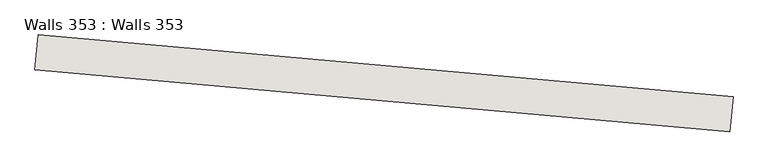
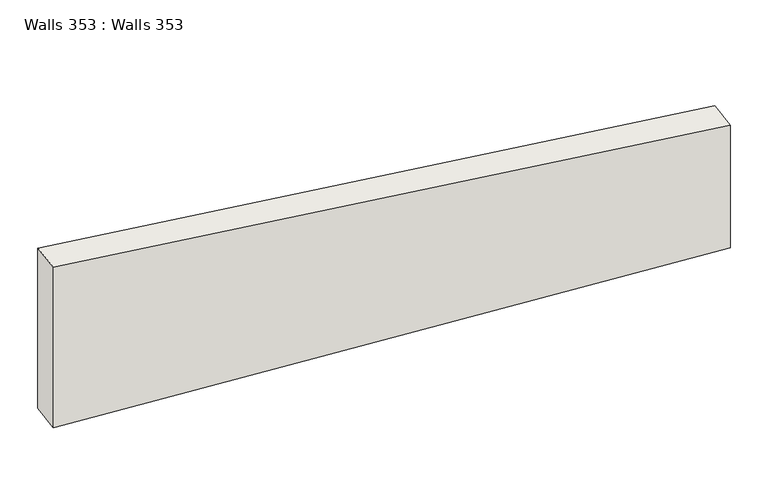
"""IFC4 building model written with IfcOpenShell, lengths in millimetres: wall geometry, Walls 353 : Walls 353."""

from ifc_helpers import new_model, si_unit, frame, origin, place, context, project, spatial, polyline, outline, extrude, source, transform, mapped, element, save


def walls_353_walls_353_ad2e617e(model_context):
    return source(origin(), model_context, "Body", "SweptSolid", [
        extrude(outline(polyline([(-800.0, 0.0), (800.0, 0.0), (1300.0, -7999.9999999), (-800.0, -7999.9999999), (-800.0, 0.0)])), frame((-742400.8737792, -412940.9199145, 635660.0), z_axis=(0.08873732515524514, 0.9960550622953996, 0.0), x_axis=(0.0, 0.0, 1.0)), (0.0, 0.0, 1.0), 400.0),
    ])


if __name__ == "__main__":
    model = new_model("IFC4")
    model_context = context("Model", 3, world=origin())
    ifc_project = project(units=[si_unit("LENGTHUNIT", "METRE", prefix="MILLI")], contexts=[model_context])
    site = spatial("IfcSite", under=ifc_project)
    building = spatial("IfcBuilding", under=site)
    placement = place(None, origin())
    walls_353_walls_353_shape = walls_353_walls_353_ad2e617e(model_context)
    element("IfcWall", 1, ObjectType="Walls 353 : Walls 353", at=placement, inside=building, context=model_context, shape_type="MappedRepresentation", body=[
        mapped(walls_353_walls_353_shape, transform((0.0, 0.0, 0.0), x_axis=(1.0, 0.0, 0.0), y_axis=(0.0, 1.0, 0.0), z_axis=(0.0, 0.0, 1.0))),
    ])
    save(model, "model.ifc")
